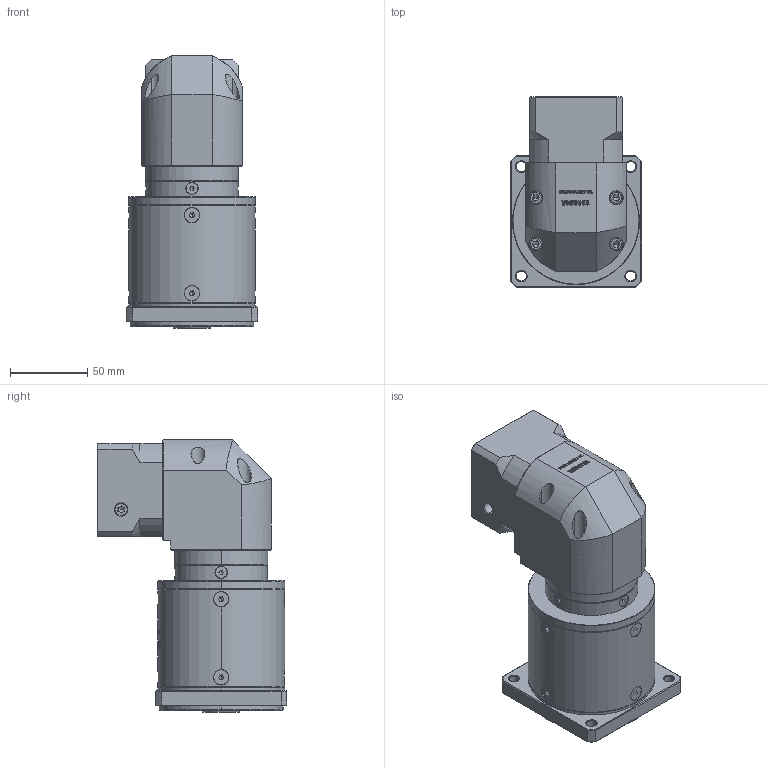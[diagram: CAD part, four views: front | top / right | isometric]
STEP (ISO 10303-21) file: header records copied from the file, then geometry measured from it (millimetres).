
FILE_DESCRIPTION (( 'STEP AP214' ), '1' );
FILE_NAME ('ZFR80-K15-L3-8-38.1-47.14x47.14-M4.step', '2022-05-08T15:02:04', ( '' ), ( 'Microsoft' ), 'SwSTEP 2.0', 'SolidWorks 2016', '' );
FILE_SCHEMA (( 'AUTOMOTIVE_DESIGN' ));
Length unit declared in the file: millimetre
Products named in the file (1): ZFR80-K15-L3-8-38.1-47.14x47.14-M4
Bounding box: 85 x 122.7 x 176 mm (x, y, z)
Volume: 875740.5 mm3; surface area: 107573.6 mm2
Topology: 17 solids, 18 shells, 3023 faces, 8076 edges, 5210 vertices
Faces by surface type: plane 1595, bspline 598, cylinder 435, cone 375, torus 20
Entity records: 157298 total; most frequent: CARTESIAN_POINT 53704, ORIENTED_EDGE 16064, DIRECTION 12296, EDGE_CURVE 8032, VERTEX_POINT 5210, LINE 4926, VECTOR 4926, AXIS2_PLACEMENT_3D 3685
